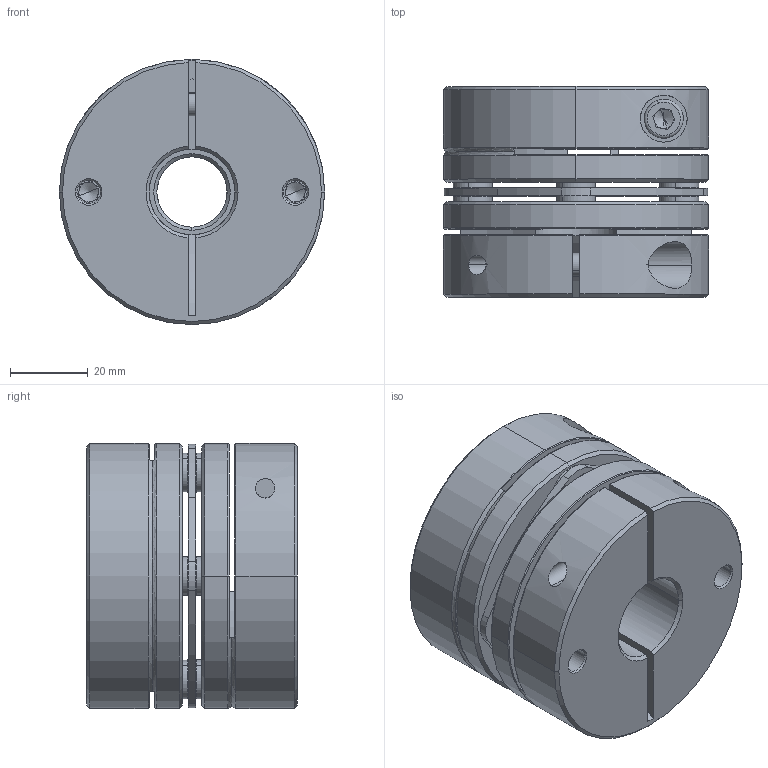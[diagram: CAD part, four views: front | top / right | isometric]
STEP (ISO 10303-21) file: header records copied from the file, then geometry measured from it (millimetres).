
FILE_DESCRIPTION (( 'STEP AP203' ), '1' );
FILE_NAME ('LD1-D68-18-22.STEP', '2021-10-26T07:52:54', ( '' ), ( '' ), 'SwSTEP 2.0', 'SolidWorks 2018', '' );
FILE_SCHEMA (( 'CONFIG_CONTROL_DESIGN' ));
Length unit declared in the file: millimetre
Products named in the file (2): LD1-D68-18-22; 錨璃101^LD1-D68
Assembly tree (1 placements, depth 2):
  LD1-D68-18-22
    錨璃101^LD1-D68
Bounding box: 68 x 54 x 68 mm (x, y, z)
Volume: 150865.1 mm3; surface area: 46855.9 mm2
Topology: 1 solids, 15 shells, 445 faces, 1059 edges, 650 vertices
Faces by surface type: cylinder 163, plane 138, cone 122, torus 22
Entity records: 13459 total; most frequent: CARTESIAN_POINT 2611, DIRECTION 2433, ORIENTED_EDGE 2086, EDGE_CURVE 1043, AXIS2_PLACEMENT_3D 988, VERTEX_POINT 650, CIRCLE 539, EDGE_LOOP 525
